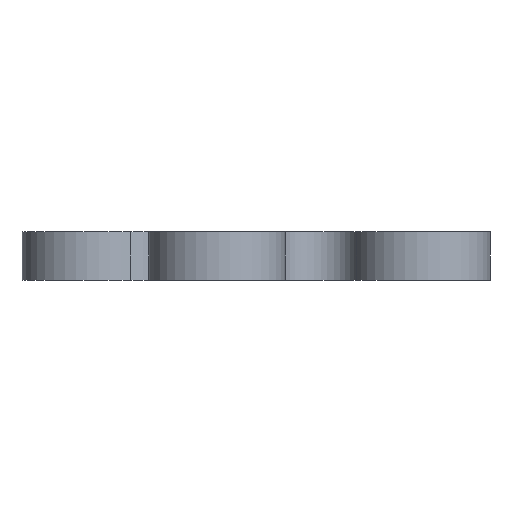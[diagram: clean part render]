
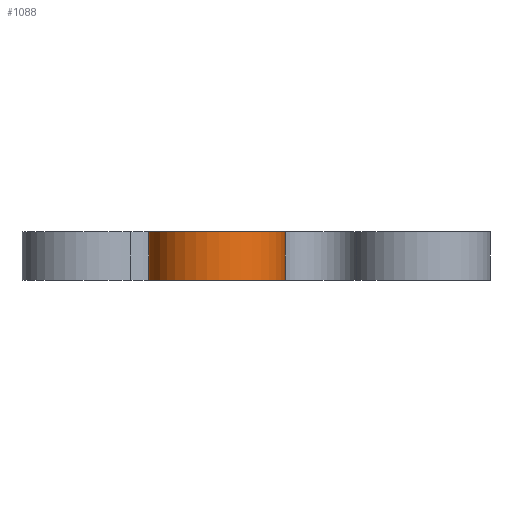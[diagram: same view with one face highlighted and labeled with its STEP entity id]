
A CAD part, left-side view. The second image highlights one B-rep face of the part: STEP entity #1088.
In plain terms, the highlighted cylindrical face has radius 14 mm (diameter 28 mm), a partial arc.
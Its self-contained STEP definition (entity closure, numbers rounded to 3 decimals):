
#74=FACE_OUTER_BOUND('',#134,.T.);
#134=EDGE_LOOP('',(#965,#966,#967,#968));
#190=LINE('',#2006,#246);
#191=LINE('',#2008,#247);
#246=VECTOR('',#1664,10.);
#247=VECTOR('',#1667,10.);
#253=CIRCLE('',#1111,14.);
#357=CIRCLE('',#1259,14.);
#367=VERTEX_POINT('',#1687);
#368=VERTEX_POINT('',#1689);
#470=VERTEX_POINT('',#1981);
#471=VERTEX_POINT('',#1983);
#479=EDGE_CURVE('',#367,#368,#253,.T.);
#626=EDGE_CURVE('',#471,#470,#357,.T.);
#638=EDGE_CURVE('',#470,#368,#190,.T.);
#639=EDGE_CURVE('',#471,#367,#191,.T.);
#965=ORIENTED_EDGE('',*,*,#626,.T.);
#966=ORIENTED_EDGE('',*,*,#638,.T.);
#967=ORIENTED_EDGE('',*,*,#479,.F.);
#968=ORIENTED_EDGE('',*,*,#639,.F.);
#1030=CYLINDRICAL_SURFACE('',#1272,14.);
#1088=ADVANCED_FACE('',(#74),#1030,.T.);
#1111=AXIS2_PLACEMENT_3D('',#1690,#1291,#1292);
#1259=AXIS2_PLACEMENT_3D('',#1984,#1630,#1631);
#1272=AXIS2_PLACEMENT_3D('',#2007,#1665,#1666);
#1291=DIRECTION('center_axis',(0.,0.,1.));
#1292=DIRECTION('ref_axis',(0.809,0.588,0.));
#1630=DIRECTION('center_axis',(0.,0.,1.));
#1631=DIRECTION('ref_axis',(0.809,0.588,0.));
#1664=DIRECTION('',(0.,0.,1.));
#1665=DIRECTION('center_axis',(0.,0.,1.));
#1666=DIRECTION('ref_axis',(-0.951,0.309,0.));
#1667=DIRECTION('',(0.,0.,1.));
#1687=CARTESIAN_POINT('',(-24.271,19.795,10.));
#1689=CARTESIAN_POINT('',(-31.271,-1.749,10.));
#1690=CARTESIAN_POINT('Origin',(-35.597,11.566,10.));
#1981=CARTESIAN_POINT('',(-31.271,-1.749,0.));
#1983=CARTESIAN_POINT('',(-24.271,19.795,0.));
#1984=CARTESIAN_POINT('Origin',(-35.597,11.566,0.));
#2006=CARTESIAN_POINT('',(-31.271,-1.749,0.));
#2007=CARTESIAN_POINT('Origin',(-35.597,11.566,0.));
#2008=CARTESIAN_POINT('',(-24.271,19.795,0.));
